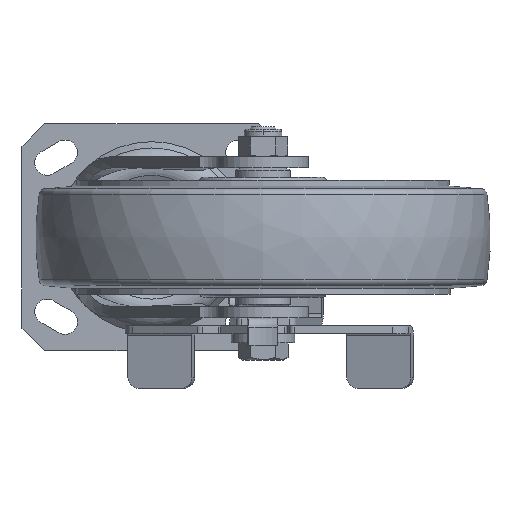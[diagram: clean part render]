
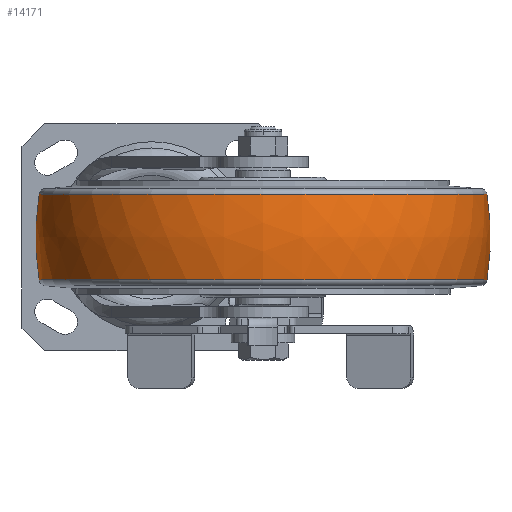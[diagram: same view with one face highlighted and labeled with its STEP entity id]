
A CAD part, front view. The second image highlights one B-rep face of the part: STEP entity #14171.
In plain terms, the highlighted free-form (B-spline) face has degree [3, 3] with [7, 4] control points.
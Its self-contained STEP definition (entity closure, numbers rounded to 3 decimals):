
#13339=CARTESIAN_POINT('',(0.,-20.094,0.));
#13340=DIRECTION('',(0.,0.,1.));
#13341=DIRECTION('',(0.158,0.988,0.));
#13342=AXIS2_PLACEMENT_3D('',#13339,#13340,#13341);
#13344=CARTESIAN_POINT('',(0.,20.094,0.));
#13345=DIRECTION('',(0.,0.,-1.));
#13346=DIRECTION('',(0.158,-0.988,0.));
#13347=AXIS2_PLACEMENT_3D('',#13344,#13345,#13346);
#13349=CARTESIAN_POINT('',(18.914,0.,0.));
#13350=DIRECTION('',(-1.,0.,0.));
#13351=DIRECTION('',(0.,1.,0.));
#13352=AXIS2_PLACEMENT_3D('',#13349,#13350,#13351);
#13374=CARTESIAN_POINT('',(-18.783,0.,0.));
#13375=DIRECTION('',(-1.,0.,0.));
#13376=DIRECTION('',(0.,1.,0.));
#13377=AXIS2_PLACEMENT_3D('',#13374,#13375,#13376);
#13635=CARTESIAN_POINT('',(18.914,98.451,
0.));
#13636=VERTEX_POINT('',#13635);
#13637=CARTESIAN_POINT('',(-18.783,98.471,
0.));
#13638=VERTEX_POINT('',#13637);
#13699=CARTESIAN_POINT('',(18.914,-98.451,
0.));
#13700=VERTEX_POINT('',#13699);
#13701=CARTESIAN_POINT('',(-18.783,-98.471,
0.));
#13702=VERTEX_POINT('',#13701);
#14133=CARTESIAN_POINT('',(-19.531,-98.157,
6.175));
#14134=CARTESIAN_POINT('',(-6.524,-100.297,
6.31));
#14135=CARTESIAN_POINT('',(6.657,-100.29,
6.31));
#14136=CARTESIAN_POINT('',(19.661,-98.135,
6.174));
#14137=CARTESIAN_POINT('',(-19.531,-101.957,
-54.23));
#14138=CARTESIAN_POINT('',(-6.524,-104.18,
-55.412));
#14139=CARTESIAN_POINT('',(6.657,-104.173,
-55.408));
#14140=CARTESIAN_POINT('',(19.661,-101.934,
-54.218));
#14141=CARTESIAN_POINT('',(-19.531,-60.525,
-98.351));
#14142=CARTESIAN_POINT('',(-6.524,-61.845,
-100.495));
#14143=CARTESIAN_POINT('',(6.657,-61.84,
-100.488));
#14144=CARTESIAN_POINT('',(19.661,-60.512,
-98.329));
#14145=CARTESIAN_POINT('',(-19.531,0.,
-98.351));
#14146=CARTESIAN_POINT('',(-6.524,0.,
-100.495));
#14147=CARTESIAN_POINT('',(6.657,0.,
-100.488));
#14148=CARTESIAN_POINT('',(19.661,0.,
-98.329));
#14149=CARTESIAN_POINT('',(-19.531,60.525,
-98.351));
#14150=CARTESIAN_POINT('',(-6.524,61.845,
-100.495));
#14151=CARTESIAN_POINT('',(6.657,61.84,
-100.488));
#14152=CARTESIAN_POINT('',(19.661,60.512,
-98.329));
#14153=CARTESIAN_POINT('',(-19.531,101.957,
-54.23));
#14154=CARTESIAN_POINT('',(-6.524,104.18,
-55.412));
#14155=CARTESIAN_POINT('',(6.657,104.173,
-55.408));
#14156=CARTESIAN_POINT('',(19.661,101.934,
-54.218));
#14157=CARTESIAN_POINT('',(-19.531,98.157,
6.175));
#14158=CARTESIAN_POINT('',(-6.524,100.297,
6.31));
#14159=CARTESIAN_POINT('',(6.657,100.29,6.31));
#14160=CARTESIAN_POINT('',(19.661,98.135,6.174));
#14161=(BOUNDED_SURFACE()B_SPLINE_SURFACE(3,3,((#14133,#14134,#14135,#14136),(
#14137,#14138,#14139,#14140),(#14141,#14142,#14143,#14144),(#14145,#14146,
#14147,#14148),(#14149,#14150,#14151,#14152),(#14153,#14154,#14155,#14156),(
#14157,#14158,#14159,#14160)),.UNSPECIFIED.,.F.,.F.,.F.)B_SPLINE_SURFACE_WITH_KNOTS((4,3,4),(4,4),(0.,1.,2.),(0.,1.),.UNSPECIFIED.)GEOMETRIC_REPRESENTATION_ITEM()RATIONAL_B_SPLINE_SURFACE(((1.195,1.185,
1.185,1.195),(0.944,0.935,
0.935,0.944),(0.944,0.935,
0.935,0.944),(1.195,1.185,
1.185,1.195),(0.944,0.935,
0.935,0.944),(0.944,0.935,
0.935,0.944),(1.195,1.185,
1.185,1.195)))REPRESENTATION_ITEM('')SURFACE());
#14163=ORIENTED_EDGE('',*,*,#14162,.T.);
#14165=ORIENTED_EDGE('',*,*,#14164,.T.);
#14167=ORIENTED_EDGE('',*,*,#14166,.F.);
#14168=ORIENTED_EDGE('',*,*,#14126,.F.);
#14169=EDGE_LOOP('',(#14163,#14165,#14167,#14168));
#14170=FACE_OUTER_BOUND('',#14169,.F.);
#13343=CIRCLE('',#13342,120.044);
#13348=CIRCLE('',#13347,120.044);
#13353=CIRCLE('',#13352,98.451);
#13378=CIRCLE('',#13377,98.471);
#14126=EDGE_CURVE('',#13636,#13700,#13353,.T.);
#14162=EDGE_CURVE('',#13636,#13638,#13343,.T.);
#14164=EDGE_CURVE('',#13638,#13702,#13378,.T.);
#14166=EDGE_CURVE('',#13700,#13702,#13348,.T.);
#14171=ADVANCED_FACE('',(#14170),#14161,.T.);
